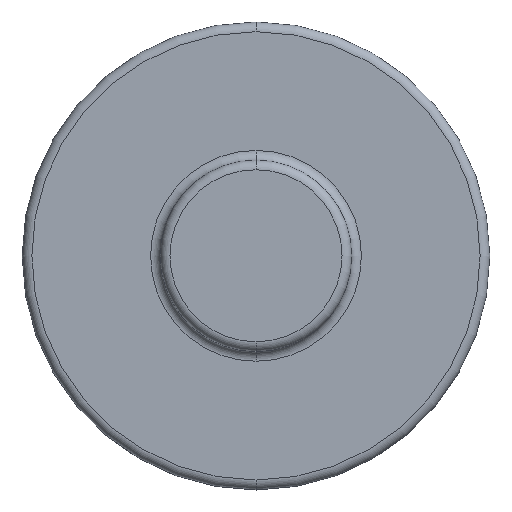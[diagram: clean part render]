
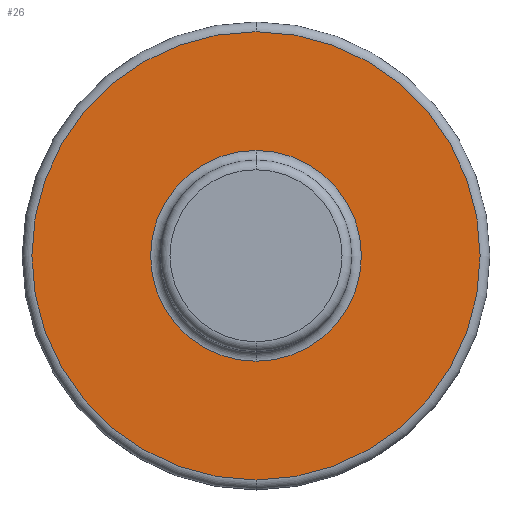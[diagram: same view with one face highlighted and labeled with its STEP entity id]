
A CAD part, top view. The second image highlights one B-rep face of the part: STEP entity #26.
In plain terms, the highlighted planar face has unit normal (0, 0, 1).
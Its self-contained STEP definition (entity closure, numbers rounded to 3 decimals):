
#1 = DIRECTION ( 'NONE',  ( 0., 0., 1. ) ) ;
#26 = ADVANCED_FACE ( 'NONE', ( #309, #92 ), #405, .F. ) ;
#59 = CARTESIAN_POINT ( 'NONE',  ( 0., 70.485, 28.575 ) ) ;
#92 = FACE_OUTER_BOUND ( 'NONE', #288, .T. ) ;
#101 = CARTESIAN_POINT ( 'NONE',  ( 0., 0., 28.575 ) ) ;
#104 = ORIENTED_EDGE ( 'NONE', *, *, #648, .T. ) ;
#124 = EDGE_CURVE ( 'NONE', #972, #976, #141, .T. ) ;
#141 = CIRCLE ( 'NONE', #428, 33.147 ) ;
#166 = DIRECTION ( 'NONE',  ( 0., -1., 0. ) ) ;
#175 = DIRECTION ( 'NONE',  ( 0., 1., 0. ) ) ;
#177 = AXIS2_PLACEMENT_3D ( 'NONE', #101, #771, #394 ) ;
#195 = AXIS2_PLACEMENT_3D ( 'NONE', #756, #751, #239 ) ;
#233 = CARTESIAN_POINT ( 'NONE',  ( 0., 0., 28.575 ) ) ;
#239 = DIRECTION ( 'NONE',  ( 0., -1., 0. ) ) ;
#252 = DIRECTION ( 'NONE',  ( 0., 0., -1. ) ) ;
#288 = EDGE_LOOP ( 'NONE', ( #104, #875 ) ) ;
#309 = FACE_BOUND ( 'NONE', #596, .T. ) ;
#326 = CARTESIAN_POINT ( 'NONE',  ( 0., -33.147, 28.575 ) ) ;
#331 = VERTEX_POINT ( 'NONE', #714 ) ;
#365 = AXIS2_PLACEMENT_3D ( 'NONE', #621, #855, #933 ) ;
#394 = DIRECTION ( 'NONE',  ( 0., -1., 0. ) ) ;
#405 = PLANE ( 'NONE',  #469 ) ;
#428 = AXIS2_PLACEMENT_3D ( 'NONE', #233, #1, #166 ) ;
#436 = ORIENTED_EDGE ( 'NONE', *, *, #940, .F. ) ;
#469 = AXIS2_PLACEMENT_3D ( 'NONE', #854, #252, #175 ) ;
#489 = CIRCLE ( 'NONE', #365, 70.485 ) ;
#596 = EDGE_LOOP ( 'NONE', ( #845, #436 ) ) ;
#621 = CARTESIAN_POINT ( 'NONE',  ( 0., 0., 28.575 ) ) ;
#648 = EDGE_CURVE ( 'NONE', #331, #750, #886, .T. ) ;
#700 = EDGE_CURVE ( 'NONE', #750, #331, #489, .T. ) ;
#714 = CARTESIAN_POINT ( 'NONE',  ( 0., -70.485, 28.575 ) ) ;
#750 = VERTEX_POINT ( 'NONE', #59 ) ;
#751 = DIRECTION ( 'NONE',  ( 0., 0., 1. ) ) ;
#756 = CARTESIAN_POINT ( 'NONE',  ( 0., 0., 28.575 ) ) ;
#771 = DIRECTION ( 'NONE',  ( 0., 0., 1. ) ) ;
#791 = CARTESIAN_POINT ( 'NONE',  ( 0., 33.147, 28.575 ) ) ;
#845 = ORIENTED_EDGE ( 'NONE', *, *, #124, .F. ) ;
#854 = CARTESIAN_POINT ( 'NONE',  ( 0., 33.147, 28.575 ) ) ;
#855 = DIRECTION ( 'NONE',  ( 0., 0., 1. ) ) ;
#875 = ORIENTED_EDGE ( 'NONE', *, *, #700, .T. ) ;
#886 = CIRCLE ( 'NONE', #177, 70.485 ) ;
#922 = CIRCLE ( 'NONE', #195, 33.147 ) ;
#933 = DIRECTION ( 'NONE',  ( 0., -1., 0. ) ) ;
#940 = EDGE_CURVE ( 'NONE', #976, #972, #922, .T. ) ;
#972 = VERTEX_POINT ( 'NONE', #326 ) ;
#976 = VERTEX_POINT ( 'NONE', #791 ) ;
